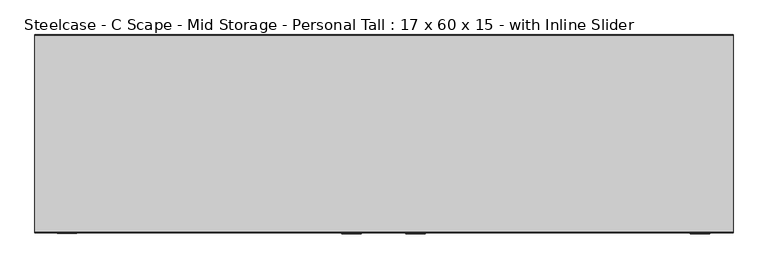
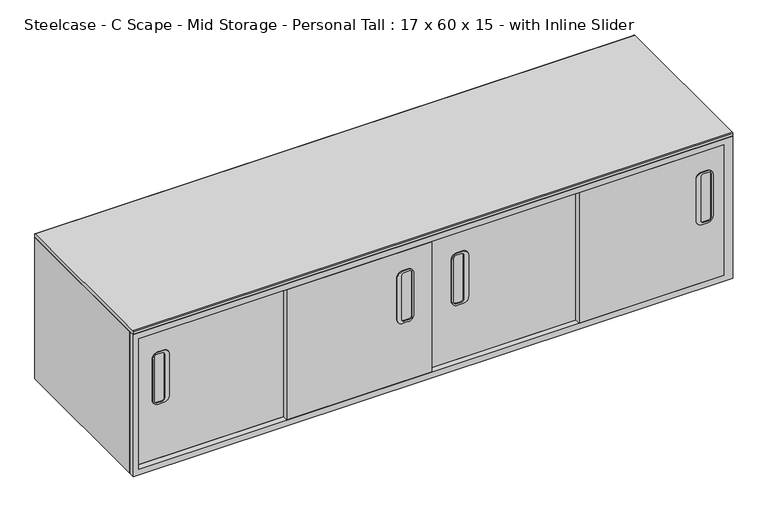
"""IFC4 building model written with IfcOpenShell, lengths in millimetres: furniture geometry, Steelcase - C Scape - Mid Storage - Personal Tall : 17 x 60 x 15 - with Inline Slider."""

from ifc_helpers import new_model, si_unit, point, frame, frame_2d, origin, place, context, project, spatial, polyline, circle_curve, trimmed, segment, composite_curve, outline, extrude, source, transform, mapped, element, save


def steelcase_c_scape_mid_storage_personal_tall_17_x_60_x_15_3d31e08c(model_context):
    return source(origin(), model_context, "Body", "SweptSolid", [
        extrude(outline(polyline([(1219.2, 1524.0), (1219.2, 0.0), (838.2, 0.0), (838.2, 1524.0), (1219.2, 1524.0)]), holes=[polyline([(1203.9092, 1501.902), (853.4399855, 1501.902), (853.4399855, 13.437709), (1203.9092, 13.437709), (1203.9092, 1501.902)])]), frame((0.0, -216.535, 0.0), z_axis=(0.0, 1.0, 0.0), x_axis=(0.0, 0.0, 1.0)), (0.0, 0.0, 1.0), 14.3764481),
        extrude(outline(polyline([(1501.902, 207.0105809), (1501.902, -187.7821039), (13.437709, -187.7821039), (13.437709, 207.0105809), (1501.902, 207.0105809)])), frame((0.0, 0.0, 1203.9600145), z_axis=(0.0, 0.0, 1.0), x_axis=(1.0, 0.0, 0.0)), (0.0, 0.0, 1.0), 15.2399855),
        extrude(outline(polyline([(1501.902, 207.0105809), (1501.902, -202.1585519), (13.437709, -202.1585519), (13.437709, 207.0105809), (1501.902, 207.0105809)])), frame((0.0, 0.0, 838.2), z_axis=(0.0, 0.0, 1.0), x_axis=(1.0, 0.0, 0.0)), (0.0, 0.0, 1.0), 15.2399855),
        extrude(outline(composite_curve([segment(polyline([(-215.265, 1229.36), (215.265, 1229.36)]), True, "CONTINUOUS"), segment(trimmed(circle_curve(frame_2d((215.265, 1228.09)), 1.27), [point((215.265, 1229.36))], [point((216.535, 1228.09))], False, "CARTESIAN"), True, "CONTINUOUS"), segment(polyline([(216.535, 1228.09), (216.535, 1220.47)]), True, "CONTINUOUS"), segment(trimmed(circle_curve(frame_2d((215.265, 1220.47)), 1.27), [point((216.535, 1220.47))], [point((215.265, 1219.2))], False, "CARTESIAN"), True, "CONTINUOUS"), segment(polyline([(215.265, 1219.2), (-215.265, 1219.2)]), True, "CONTINUOUS"), segment(trimmed(circle_curve(frame_2d((-215.265, 1220.47)), 1.27), [point((-215.265, 1219.2))], [point((-216.535, 1220.47))], False, "CARTESIAN"), True, "CONTINUOUS"), segment(polyline([(-216.535, 1220.47), (-216.535, 1228.09)]), True, "CONTINUOUS"), segment(trimmed(circle_curve(frame_2d((-215.265, 1228.09)), 1.27), [point((-216.535, 1228.09))], [point((-215.265, 1229.36))], False, "CARTESIAN"), True, "CONTINUOUS")], self_intersect=False)), frame((0.0, 0.0, 0.0), z_axis=(1.0, 0.0, 0.0), x_axis=(0.0, 1.0, 0.0)), (0.0, 0.0, 1.0), 1524.0),
        extrude(outline(polyline([(758.825, -202.1585519), (758.825, 207.0105809), (765.175, 207.0105809), (765.175, -202.1585519), (758.825, -202.1585519)])), frame((0.0, 0.0, 853.4399855), z_axis=(0.0, 0.0, 1.0), x_axis=(1.0, 0.0, 0.0)), (0.0, 0.0, 1.0), 365.7600145),
        extrude(outline(composite_curve([segment(trimmed(circle_curve(frame_2d((1137.0119827, 1459.2365115)), 13.716), [point((1137.0119827, 1472.9525115))], [point((1150.7279827, 1459.2365115))], False, "CARTESIAN"), True, "CONTINUOUS"), segment(polyline([(1150.7279827, 1459.2365115), (1150.7279827, 1444.2888855)]), True, "CONTINUOUS"), segment(trimmed(circle_curve(frame_2d((1137.1006082, 1444.2888855)), 13.6273746), [point((1150.7279827, 1444.2888855))], [point((1137.1006082, 1430.6615109))], False, "CARTESIAN"), True, "CONTINUOUS"), segment(polyline([(1137.1006082, 1430.6615109), (1024.7439343, 1430.6615109)]), True, "CONTINUOUS"), segment(trimmed(circle_curve(frame_2d((1024.7439343, 1444.3775109)), 13.716), [point((1024.7439343, 1430.6615109))], [point((1011.0279343, 1444.3775109))], False, "CARTESIAN"), True, "CONTINUOUS"), segment(polyline([(1011.0279343, 1444.3775109), (1011.0279343, 1459.2365115)]), True, "CONTINUOUS"), segment(trimmed(circle_curve(frame_2d((1024.7439343, 1459.2365115)), 13.716), [point((1011.0279343, 1459.2365115))], [point((1024.7439343, 1472.9525115))], False, "CARTESIAN"), True, "CONTINUOUS"), segment(polyline([(1024.7439343, 1472.9525115), (1137.0119827, 1472.9525115)]), True, "CONTINUOUS")], self_intersect=False), holes=[composite_curve([segment(trimmed(circle_curve(frame_2d((1022.2039479, 1461.7765115)), 6.35), [point((1022.2039479, 1468.1265115))], [point((1015.8539479, 1461.7765115))], True, "CARTESIAN"), True, "CONTINUOUS"), segment(polyline([(1015.8539479, 1461.7765115), (1015.8539479, 1449.0765176)]), True, "CONTINUOUS"), segment(trimmed(circle_curve(frame_2d((1022.2039479, 1449.0765176)), 6.35), [point((1015.8539479, 1449.0765176))], [point((1022.2039479, 1442.7265176))], True, "CARTESIAN"), True, "CONTINUOUS"), segment(polyline([(1022.2039479, 1442.7265176), (1139.5519692, 1442.7265176)]), True, "CONTINUOUS"), segment(trimmed(circle_curve(frame_2d((1139.5519692, 1449.0765176)), 6.35), [point((1139.5519692, 1442.7265176))], [point((1145.9019692, 1449.0765176))], True, "CARTESIAN"), True, "CONTINUOUS"), segment(polyline([(1145.9019692, 1449.0765176), (1145.9019692, 1461.7765115)]), True, "CONTINUOUS"), segment(trimmed(circle_curve(frame_2d((1139.5519692, 1461.7765115)), 6.35), [point((1145.9019692, 1461.7765115))], [point((1139.5519692, 1468.1265115))], True, "CARTESIAN"), True, "CONTINUOUS"), segment(polyline([(1139.5519692, 1468.1265115), (1022.2039479, 1468.1265115)]), True, "CONTINUOUS")], self_intersect=False)]), frame((0.0, -218.44, 0.0), z_axis=(0.0, 1.0, 0.0), x_axis=(0.0, 0.0, 1.0)), (0.0, 0.0, 1.0), 2.54),
        extrude(outline(composite_curve([segment(polyline([(1137.8057327, 809.2057385), (1025.5376843, 809.2057385)]), True, "CONTINUOUS"), segment(trimmed(circle_curve(frame_2d((1025.5376843, 822.9217385)), 13.716), [point((1025.5376843, 809.2057385))], [point((1011.8216843, 822.9217385))], False, "CARTESIAN"), True, "CONTINUOUS"), segment(polyline([(1011.8216843, 822.9217385), (1011.8216843, 837.7807391)]), True, "CONTINUOUS"), segment(trimmed(circle_curve(frame_2d((1025.5376843, 837.7807391)), 13.716), [point((1011.8216843, 837.7807391))], [point((1025.5376843, 851.4967391))], False, "CARTESIAN"), True, "CONTINUOUS"), segment(polyline([(1025.5376843, 851.4967391), (1137.8943582, 851.4967391)]), True, "CONTINUOUS"), segment(trimmed(circle_curve(frame_2d((1137.8943582, 837.8693645)), 13.6273746), [point((1137.8943582, 851.4967391))], [point((1151.5217327, 837.8693645))], False, "CARTESIAN"), True, "CONTINUOUS"), segment(polyline([(1151.5217327, 837.8693645), (1151.5217327, 822.9217385)]), True, "CONTINUOUS"), segment(trimmed(circle_curve(frame_2d((1137.8057327, 822.9217385)), 13.716), [point((1151.5217327, 822.9217385))], [point((1137.8057327, 809.2057385))], False, "CARTESIAN"), True, "CONTINUOUS")], self_intersect=False), holes=[composite_curve([segment(polyline([(1022.9976979, 814.0317385), (1140.3457192, 814.0317385)]), True, "CONTINUOUS"), segment(trimmed(circle_curve(frame_2d((1140.3457192, 820.3817385)), 6.35), [point((1140.3457192, 814.0317385))], [point((1146.6957192, 820.3817385))], True, "CARTESIAN"), True, "CONTINUOUS"), segment(polyline([(1146.6957192, 820.3817385), (1146.6957192, 833.0817324)]), True, "CONTINUOUS"), segment(trimmed(circle_curve(frame_2d((1140.3457192, 833.0817324)), 6.35), [point((1146.6957192, 833.0817324))], [point((1140.3457192, 839.4317324))], True, "CARTESIAN"), True, "CONTINUOUS"), segment(polyline([(1140.3457192, 839.4317324), (1022.9976979, 839.4317324)]), True, "CONTINUOUS"), segment(trimmed(circle_curve(frame_2d((1022.9976979, 833.0817324)), 6.35), [point((1022.9976979, 839.4317324))], [point((1016.6476979, 833.0817324))], True, "CARTESIAN"), True, "CONTINUOUS"), segment(polyline([(1016.6476979, 833.0817324), (1016.6476979, 820.3817385)]), True, "CONTINUOUS"), segment(trimmed(circle_curve(frame_2d((1022.9976979, 820.3817385)), 6.35), [point((1016.6476979, 820.3817385))], [point((1022.9976979, 814.0317385))], True, "CARTESIAN"), True, "CONTINUOUS")], self_intersect=False)]), frame((0.0, -218.44, 0.0), z_axis=(0.0, 1.0, 0.0), x_axis=(0.0, 0.0, 1.0)), (0.0, 0.0, 1.0), 2.54),
        extrude(outline(composite_curve([segment(trimmed(circle_curve(frame_2d((1137.8057327, 698.6970115)), 13.716), [point((1137.8057327, 712.4130115))], [point((1151.5217327, 698.6970115))], False, "CARTESIAN"), True, "CONTINUOUS"), segment(polyline([(1151.5217327, 698.6970115), (1151.5217327, 683.7493855)]), True, "CONTINUOUS"), segment(trimmed(circle_curve(frame_2d((1137.8943582, 683.7493855)), 13.6273746), [point((1151.5217327, 683.7493855))], [point((1137.8943582, 670.1220109))], False, "CARTESIAN"), True, "CONTINUOUS"), segment(polyline([(1137.8943582, 670.1220109), (1025.5376843, 670.1220109)]), True, "CONTINUOUS"), segment(trimmed(circle_curve(frame_2d((1025.5376843, 683.8380109)), 13.716), [point((1025.5376843, 670.1220109))], [point((1011.8216843, 683.8380109))], False, "CARTESIAN"), True, "CONTINUOUS"), segment(polyline([(1011.8216843, 683.8380109), (1011.8216843, 698.6970115)]), True, "CONTINUOUS"), segment(trimmed(circle_curve(frame_2d((1025.5376843, 698.6970115)), 13.716), [point((1011.8216843, 698.6970115))], [point((1025.5376843, 712.4130115))], False, "CARTESIAN"), True, "CONTINUOUS"), segment(polyline([(1025.5376843, 712.4130115), (1137.8057327, 712.4130115)]), True, "CONTINUOUS")], self_intersect=False), holes=[composite_curve([segment(trimmed(circle_curve(frame_2d((1022.9976979, 701.2370115)), 6.35), [point((1022.9976979, 707.5870115))], [point((1016.6476979, 701.2370115))], True, "CARTESIAN"), True, "CONTINUOUS"), segment(polyline([(1016.6476979, 701.2370115), (1016.6476979, 688.5370176)]), True, "CONTINUOUS"), segment(trimmed(circle_curve(frame_2d((1022.9976979, 688.5370176)), 6.35), [point((1016.6476979, 688.5370176))], [point((1022.9976979, 682.1870176))], True, "CARTESIAN"), True, "CONTINUOUS"), segment(polyline([(1022.9976979, 682.1870176), (1140.3457192, 682.1870176)]), True, "CONTINUOUS"), segment(trimmed(circle_curve(frame_2d((1140.3457192, 688.5370176)), 6.35), [point((1140.3457192, 682.1870176))], [point((1146.6957192, 688.5370176))], True, "CARTESIAN"), True, "CONTINUOUS"), segment(polyline([(1146.6957192, 688.5370176), (1146.6957192, 701.2370115)]), True, "CONTINUOUS"), segment(trimmed(circle_curve(frame_2d((1140.3457192, 701.2370115)), 6.35), [point((1146.6957192, 701.2370115))], [point((1140.3457192, 707.5870115))], True, "CARTESIAN"), True, "CONTINUOUS"), segment(polyline([(1140.3457192, 707.5870115), (1022.9976979, 707.5870115)]), True, "CONTINUOUS")], self_intersect=False)]), frame((0.0, -218.44, 0.0), z_axis=(0.0, 1.0, 0.0), x_axis=(0.0, 0.0, 1.0)), (0.0, 0.0, 1.0), 2.54),
        extrude(outline(composite_curve([segment(polyline([(1137.8057327, 48.53876), (1025.5376843, 48.53876)]), True, "CONTINUOUS"), segment(trimmed(circle_curve(frame_2d((1025.5376843, 62.25476)), 13.716), [point((1025.5376843, 48.53876))], [point((1011.8216843, 62.25476))], False, "CARTESIAN"), True, "CONTINUOUS"), segment(polyline([(1011.8216843, 62.25476), (1011.8216843, 77.1137606)]), True, "CONTINUOUS"), segment(trimmed(circle_curve(frame_2d((1025.5376843, 77.1137606)), 13.716), [point((1011.8216843, 77.1137606))], [point((1025.5376843, 90.8297606))], False, "CARTESIAN"), True, "CONTINUOUS"), segment(polyline([(1025.5376843, 90.8297606), (1137.8943582, 90.8297606)]), True, "CONTINUOUS"), segment(trimmed(circle_curve(frame_2d((1137.8943582, 77.202386)), 13.6273746), [point((1137.8943582, 90.8297606))], [point((1151.5217327, 77.202386))], False, "CARTESIAN"), True, "CONTINUOUS"), segment(polyline([(1151.5217327, 77.202386), (1151.5217327, 62.25476)]), True, "CONTINUOUS"), segment(trimmed(circle_curve(frame_2d((1137.8057327, 62.25476)), 13.716), [point((1151.5217327, 62.25476))], [point((1137.8057327, 48.53876))], False, "CARTESIAN"), True, "CONTINUOUS")], self_intersect=False), holes=[composite_curve([segment(polyline([(1022.9976979, 53.36476), (1140.3457192, 53.36476)]), True, "CONTINUOUS"), segment(trimmed(circle_curve(frame_2d((1140.3457192, 59.71476)), 6.35), [point((1140.3457192, 53.36476))], [point((1146.6957192, 59.71476))], True, "CARTESIAN"), True, "CONTINUOUS"), segment(polyline([(1146.6957192, 59.71476), (1146.6957192, 72.4147539)]), True, "CONTINUOUS"), segment(trimmed(circle_curve(frame_2d((1140.3457192, 72.4147539)), 6.35), [point((1146.6957192, 72.4147539))], [point((1140.3457192, 78.7647539))], True, "CARTESIAN"), True, "CONTINUOUS"), segment(polyline([(1140.3457192, 78.7647539), (1022.9976979, 78.7647539)]), True, "CONTINUOUS"), segment(trimmed(circle_curve(frame_2d((1022.9976979, 72.4147539)), 6.35), [point((1022.9976979, 78.7647539))], [point((1016.6476979, 72.4147539))], True, "CARTESIAN"), True, "CONTINUOUS"), segment(polyline([(1016.6476979, 72.4147539), (1016.6476979, 59.71476)]), True, "CONTINUOUS"), segment(trimmed(circle_curve(frame_2d((1022.9976979, 59.71476)), 6.35), [point((1016.6476979, 59.71476))], [point((1022.9976979, 53.36476))], True, "CARTESIAN"), True, "CONTINUOUS")], self_intersect=False)]), frame((0.0, -217.805, 0.0), z_axis=(0.0, 1.0, 0.0), x_axis=(0.0, 0.0, 1.0)), (0.0, 0.0, 1.0), 1.27),
        extrude(outline(polyline([(390.3980817, -202.1585519), (13.437709, -202.1585519), (13.437709, -187.1471039), (390.3980817, -187.1471039), (390.3980817, -202.1585519)])), frame((0.0, 0.0, 853.4399855), z_axis=(0.0, 0.0, 1.0), x_axis=(1.0, 0.0, 0.0)), (0.0, 0.0, 1.0), 350.4692145),
        extrude(outline(polyline([(758.825, -215.9), (390.3980817, -215.9), (390.3980817, -202.1585519), (758.825, -202.1585519), (758.825, -215.9)])), frame((0.0, 0.0, 853.4399855), z_axis=(0.0, 0.0, 1.0), x_axis=(1.0, 0.0, 0.0)), (0.0, 0.0, 1.0), 350.4692145),
        extrude(outline(polyline([(1501.902, -216.535), (1133.5385, -216.535), (1133.5385, -202.1585519), (1501.902, -202.1585519), (1501.902, -216.535)])), frame((0.0, 0.0, 853.4399855), z_axis=(0.0, 0.0, 1.0), x_axis=(1.0, 0.0, 0.0)), (0.0, 0.0, 1.0), 350.4692145),
        extrude(outline(polyline([(1133.5385, -202.1585519), (765.175, -202.1585519), (765.175, -187.7821039), (1133.5385, -187.7821039), (1133.5385, -202.1585519)])), frame((0.0, 0.0, 853.4399855), z_axis=(0.0, 0.0, 1.0), x_axis=(1.0, 0.0, 0.0)), (0.0, 0.0, 1.0), 365.7600145),
        extrude(outline(polyline([(13.437709, -202.1585519), (0.0, -202.1585519), (0.0, 216.535), (1524.0, 216.535), (1524.0, -202.1585519), (1501.902, -202.1585519), (1501.902, 207.0105809), (793.2892922, 207.0105809), (13.437709, 207.0105809), (13.437709, -202.1585519)])), frame((0.0, 0.0, 838.2), z_axis=(0.0, 0.0, 1.0), x_axis=(1.0, 0.0, 0.0)), (0.0, 0.0, 1.0), 381.0),
    ])


if __name__ == "__main__":
    model = new_model("IFC4")
    model_context = context("Model", 3, world=origin())
    ifc_project = project(units=[si_unit("LENGTHUNIT", "METRE", prefix="MILLI")], contexts=[model_context])
    site = spatial("IfcSite", under=ifc_project)
    building = spatial("IfcBuilding", under=site)
    placement = place(None, origin())
    steelcase_c_scape_mid_storage_personal_tall_17_x_60_x_15_shape = steelcase_c_scape_mid_storage_personal_tall_17_x_60_x_15_3d31e08c(model_context)
    element("IfcFurniture", 1, ObjectType="Steelcase - C Scape - Mid Storage - Personal Tall : 17 x 60 x 15 - with Inline Slider", at=placement, inside=building, context=model_context, shape_type="MappedRepresentation", body=[
        mapped(steelcase_c_scape_mid_storage_personal_tall_17_x_60_x_15_shape, transform((0.0, 0.0, 0.0), x_axis=(1.0, 0.0, 0.0), y_axis=(0.0, 1.0, 0.0), z_axis=(0.0, 0.0, 1.0))),
    ])
    save(model, "model.ifc")
